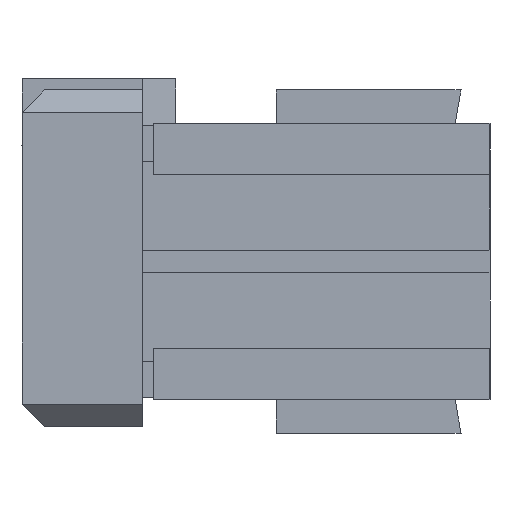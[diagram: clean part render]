
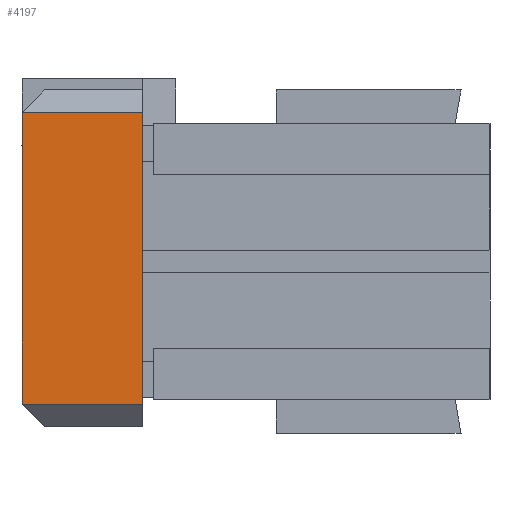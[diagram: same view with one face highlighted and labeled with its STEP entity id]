
A CAD part, front view. The second image highlights one B-rep face of the part: STEP entity #4197.
In plain terms, the highlighted planar face has unit normal (0, -1, 0).
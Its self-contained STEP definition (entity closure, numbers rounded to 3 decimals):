
#1128=CARTESIAN_POINT('Line Origine',(-15.6,-18.75,0.15)) ;
#1132=CARTESIAN_POINT('Vertex',(-15.6,-18.75,6.7)) ;
#1134=CARTESIAN_POINT('Vertex',(-15.6,-18.75,-6.4)) ;
#4167=CARTESIAN_POINT('Axis2P3D Location',(-21.,-18.75,7.7)) ;
#4172=CARTESIAN_POINT('Line Origine',(-21.,-18.75,0.15)) ;
#4176=CARTESIAN_POINT('Vertex',(-21.,-18.75,6.7)) ;
#4178=CARTESIAN_POINT('Vertex',(-21.,-18.75,-6.4)) ;
#4181=CARTESIAN_POINT('Line Origine',(-18.3,-18.75,-6.4)) ;
#4186=CARTESIAN_POINT('Line Origine',(-18.3,-18.75,6.7)) ;
#1129=DIRECTION('Vector Direction',(0.,0.,1.)) ;
#4168=DIRECTION('Axis2P3D Direction',(0.,-1.,0.)) ;
#4169=DIRECTION('Axis2P3D XDirection',(0.,0.,-1.)) ;
#4173=DIRECTION('Vector Direction',(0.,0.,-1.)) ;
#4182=DIRECTION('Vector Direction',(-1.,0.,0.)) ;
#4187=DIRECTION('Vector Direction',(1.,0.,0.)) ;
#4170=AXIS2_PLACEMENT_3D('Plane Axis2P3D',#4167,#4168,#4169) ;
#4192=ORIENTED_EDGE('',*,*,#4180,.T.) ;
#4193=ORIENTED_EDGE('',*,*,#4185,.F.) ;
#4194=ORIENTED_EDGE('',*,*,#1136,.F.) ;
#4195=ORIENTED_EDGE('',*,*,#4190,.T.) ;
#1130=VECTOR('Line Direction',#1129,1.) ;
#4174=VECTOR('Line Direction',#4173,1.) ;
#4183=VECTOR('Line Direction',#4182,1.) ;
#4188=VECTOR('Line Direction',#4187,1.) ;
#4197=ADVANCED_FACE('Body',(#4196),#4171,.T.) ;
#1136=EDGE_CURVE('',#1133,#1135,#1131,.F.) ;
#4180=EDGE_CURVE('',#4177,#4179,#4175,.T.) ;
#4185=EDGE_CURVE('',#1135,#4179,#4184,.T.) ;
#4190=EDGE_CURVE('',#1133,#4177,#4189,.F.) ;
#4191=EDGE_LOOP('',(#4192,#4193,#4194,#4195)) ;
#4196=FACE_OUTER_BOUND('',#4191,.T.) ;
#1131=LINE('Line',#1128,#1130) ;
#4175=LINE('Line',#4172,#4174) ;
#4184=LINE('Line',#4181,#4183) ;
#4189=LINE('Line',#4186,#4188) ;
#4171=PLANE('',#4170) ;
#1133=VERTEX_POINT('',#1132) ;
#1135=VERTEX_POINT('',#1134) ;
#4177=VERTEX_POINT('',#4176) ;
#4179=VERTEX_POINT('',#4178) ;
